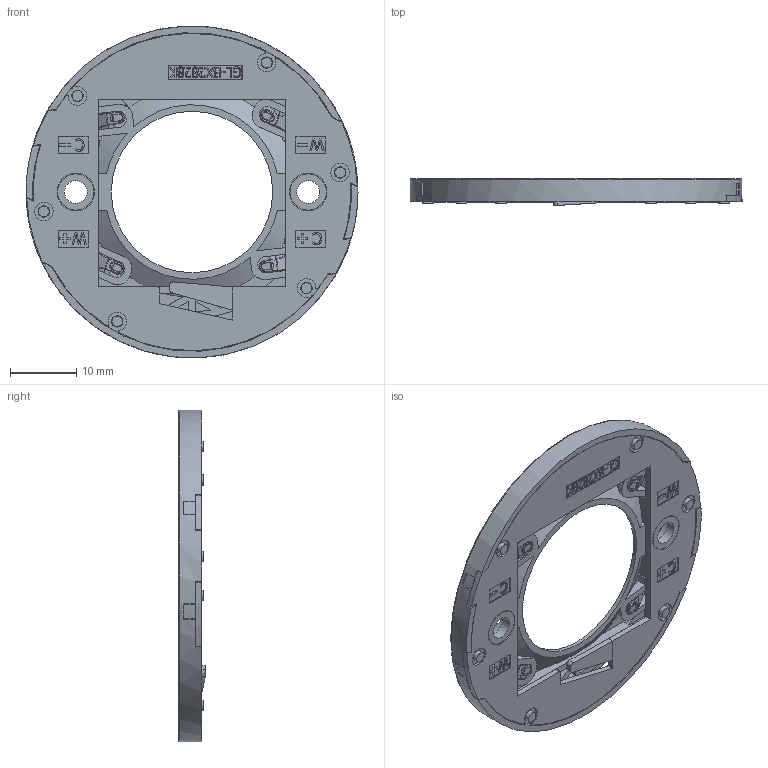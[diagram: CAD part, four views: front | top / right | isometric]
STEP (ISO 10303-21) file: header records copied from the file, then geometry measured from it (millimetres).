
FILE_DESCRIPTION(/* description */ (''),/* implementation_level */ '2;1');
FILE_NAME(/* name */ 'C:\Users\CS\Desktop\BXHD-2828-243.stp',/* time_stamp */ '2024-10-15T14:51:48+08:00',/* author */ ('CS'),/* organization */ (''),/* preprocessor_version */ 'ST-DEVELOPER v18',/* originating_system */ 'Autodesk Inventor 2020',/* authorisation */ '');
FILE_SCHEMA (('AUTOMOTIVE_DESIGN { 1 0 10303 214 3 1 1 }'));
Length unit declared in the file: millimetre
Products named in the file (4): GL-BX2828K规格图; BX2828K-1（20240627）; BX2828K-3（20231222）; 1830-2G（规格图用）
Assembly tree (6 placements, depth 2):
  GL-BX2828K规格图
    BX2828K-1（20240627）
    BX2828K-3（20231222）
    1830-2G（规格图用）  x4
Bounding box: 50 x 4.05 x 50 mm (x, y, z)
Volume: 3502.2 mm3; surface area: 7233.8 mm2
Topology: 6 solids, 6 shells, 1641 faces, 4369 edges, 2846 vertices
Faces by surface type: plane 920, bspline 427, cylinder 228, cone 41, torus 25
Full cylindrical faces by diameter (mm): 1.6 x6, 1.7 x6, 2.8 x2, 3.45 x2, 3.553 x1, 5.45 x2, 5.65 x2, 6.6 x2, 24.3 x1, 50 x1
Entity records: 46413 total; most frequent: CARTESIAN_POINT 13073, ORIENTED_EDGE 7630, DIRECTION 5557, EDGE_CURVE 3815, VERTEX_POINT 2525, LINE 2503, VECTOR 2503, EDGE_LOOP 1534
